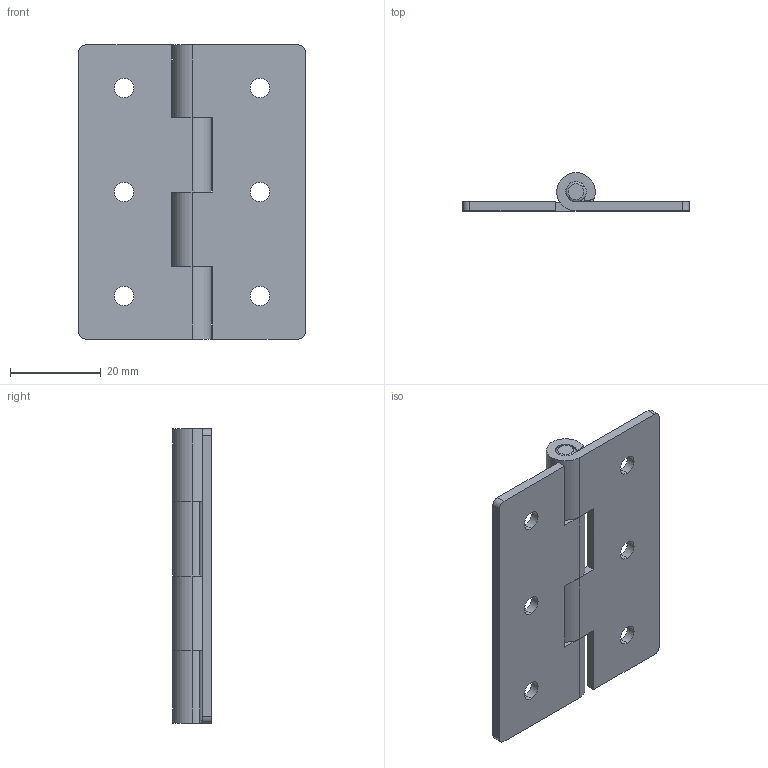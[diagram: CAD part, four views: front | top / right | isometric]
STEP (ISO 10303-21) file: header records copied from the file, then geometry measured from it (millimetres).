
FILE_DESCRIPTION (( 'STEP AP214' ), '1' );
FILE_NAME ('SK2-072-4.STEP', '2020-04-14T02:29:59', ( 'admin' ), ( 'Microsoft' ), 'SwSTEP 2.0', 'SolidWorks 2018', '' );
FILE_SCHEMA (( 'AUTOMOTIVE_DESIGN' ));
Length unit declared in the file: millimetre
Products named in the file (4): 2-072-4-F1_嫖醱; 2-072-4-F2; 2-072-4-F1; SK2-072-4
Assembly tree (3 placements, depth 2):
  SK2-072-4
    2-072-4-F1
    2-072-4-F2
    2-072-4-F1_嫖醱
Bounding box: 50 x 8.5 x 65 mm (x, y, z)
Volume: 9007.2 mm3; surface area: 10119 mm2
Topology: 3 solids, 3 shells, 187 faces, 512 edges, 340 vertices
Faces by surface type: plane 112, cylinder 42, bspline 29, torus 4
Entity records: 7362 total; most frequent: CARTESIAN_POINT 2546, ORIENTED_EDGE 1024, DIRECTION 874, EDGE_CURVE 512, LINE 362, VECTOR 362, VERTEX_POINT 340, AXIS2_PLACEMENT_3D 256
